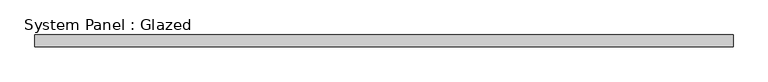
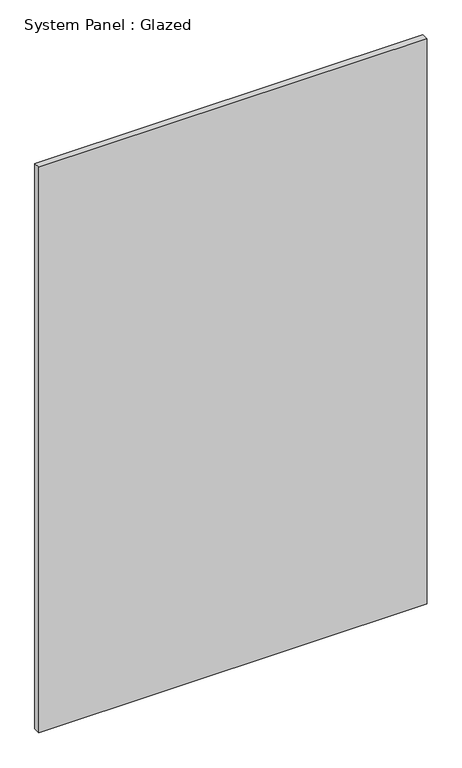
"""IFC4 building model written with IfcOpenShell, lengths in millimetres: plate geometry, System Panel : Glazed."""

import ifcopenshell
import ifcopenshell.guid

model = None  # the IFC model being written
_history = None  # IfcOwnerHistory: only IFC2X3 demands one
_inside = {}  # id of a spatial element -> (the spatial element, [elements in it])
_under = {}  # id of a project, library or spatial element -> (it, [spatial elements below it])
_declared = {}  # id of a project -> (the project, [libraries it declares])
_typed = {}  # id of a type object -> (the type object, [elements of that type])
_made_of = {}  # id of a material, layer set ... -> (it, [elements and type objects made of it])


def new_model(schema):
    """Start an empty IFC model of exactly this schema.

    Asked for "IFC4X3", IfcOpenShell would pick the latest addendum, in which some entities
    have other attributes; the version numbers below select the first issue.
    IFC2X3 requires an IfcOwnerHistory on every rooted entity: one is made here for all.
    """
    global model, _history
    if schema == "IFC4X3":
        model = ifcopenshell.file(schema_version=(4, 3, 0, 0))
    else:
        model = ifcopenshell.file(schema=schema)
    _inside.clear()
    _under.clear()
    _declared.clear()
    _typed.clear()
    _made_of.clear()
    _history = None
    if model.schema == "IFC2X3":
        org = make("IfcOrganization", Name="unknown")
        user = make(
            "IfcPersonAndOrganization",
            ThePerson=make("IfcPerson", FamilyName="unknown"),
            TheOrganization=org,
        )
        app = make(
            "IfcApplication",
            ApplicationDeveloper=org,
            Version="unknown",
            ApplicationFullName="unknown",
            ApplicationIdentifier="unknown",
        )
        _history = make(
            "IfcOwnerHistory",
            OwningUser=user,
            OwningApplication=app,
            ChangeAction="ADDED",
            CreationDate=0,
        )
    return model


def make(cls, **values):
    """One entity of the class cls with the attributes given. An attribute that is None is left unset."""
    return model.create_entity(
        cls, **{name: value for name, value in values.items() if value is not None}
    )


def rooted(cls, **values):
    """An entity with a GlobalId (a new one), such as an element, a storey or a relation."""
    return make(cls, GlobalId=ifcopenshell.guid.new(), OwnerHistory=_history, **values)


def si_unit(unit_type, name, prefix=None):
    """IfcSIUnit, for example si_unit("LENGTHUNIT", "METRE", prefix="MILLI")."""
    return make("IfcSIUnit", UnitType=unit_type, Prefix=prefix, Name=name)


def assignment(units):
    """IfcUnitAssignment: the units of a project."""
    return None if units is None else make("IfcUnitAssignment", Units=units)


def point(xyz):
    """IfcCartesianPoint."""
    return None if xyz is None else make("IfcCartesianPoint", Coordinates=xyz)


def direction(xyz):
    """IfcDirection."""
    return None if xyz is None else make("IfcDirection", DirectionRatios=xyz)


def frame(location, z_axis=None, x_axis=None):
    """IfcAxis2Placement3D, a coordinate frame: its origin and axes. An axis left out is left unset."""
    return make(
        "IfcAxis2Placement3D",
        Location=point(location),
        Axis=direction(z_axis),
        RefDirection=direction(x_axis),
    )


def origin():
    """The frame at (0, 0, 0) with its axes left unset."""
    return frame((0.0, 0.0, 0.0))


def origin_with_axes():
    """The frame at (0, 0, 0) with the z axis (0, 0, 1) and the x axis (1, 0, 0) written out."""
    return frame((0.0, 0.0, 0.0), z_axis=(0.0, 0.0, 1.0), x_axis=(1.0, 0.0, 0.0))


def place(relative_to, where):
    """IfcLocalPlacement: puts the frame where relative to a parent placement (None: the world)."""
    return make(
        "IfcLocalPlacement", PlacementRelTo=relative_to, RelativePlacement=where
    )


def context(
    kind, dimensions, precision=None, world=None, true_north=None, identifier=None
):
    """IfcGeometricRepresentationContext, for example the 3D "Model" context."""
    return make(
        "IfcGeometricRepresentationContext",
        ContextIdentifier=identifier,
        ContextType=kind,
        CoordinateSpaceDimension=dimensions,
        Precision=precision,
        WorldCoordinateSystem=world,
        TrueNorth=true_north,
    )


def project(units=None, contexts=None):
    """IfcProject with its units and contexts."""
    return rooted(
        "IfcProject",
        Name="project",
        RepresentationContexts=contexts,
        UnitsInContext=assignment(units),
    )


def spatial(cls, under=None, at=None, **own):
    """A site, building, storey or space (cls), placed at a placement, below another one or the project."""
    s = rooted(cls, ObjectPlacement=at, **own)
    if under is not None:
        _under.setdefault(under.id(), (under, []))[1].append(s)
    return s


def polyline(points):
    """IfcPolyline through the points."""
    return make("IfcPolyline", Points=[point(p) for p in points])


def outline(outer, holes=None, kind="AREA"):
    """IfcArbitraryClosedProfileDef: a profile drawn as a closed curve; with holes, ...WithVoids."""
    if holes is None:
        return make("IfcArbitraryClosedProfileDef", ProfileType=kind, OuterCurve=outer)
    return make(
        "IfcArbitraryProfileDefWithVoids",
        ProfileType=kind,
        OuterCurve=outer,
        InnerCurves=holes,
    )


def extrude(swept, where, along, depth):
    """IfcExtrudedAreaSolid: the profile swept, set in the frame where, extruded along a direction by depth."""
    return make(
        "IfcExtrudedAreaSolid",
        SweptArea=swept,
        Position=where,
        ExtrudedDirection=direction(along),
        Depth=depth,
    )


def shape(context_of_items, identifier, shape_type, items):
    """IfcShapeRepresentation: the items that make up one representation, for example the "Body"."""
    return make(
        "IfcShapeRepresentation",
        ContextOfItems=context_of_items,
        RepresentationIdentifier=identifier,
        RepresentationType=shape_type,
        Items=items,
    )


def source(mapping_origin, context_of_items, identifier, shape_type, items):
    """IfcRepresentationMap: a shape defined once, which mapped items show again and again."""
    return make(
        "IfcRepresentationMap",
        MappingOrigin=mapping_origin,
        MappedRepresentation=shape(context_of_items, identifier, shape_type, items),
    )


def transform(
    local_origin,
    x_axis=None,
    y_axis=None,
    z_axis=None,
    scale=None,
    scale2=None,
    scale3=None,
    uniform=True,
):
    """IfcCartesianTransformationOperator3D, or its non-uniform kind. x_axis, y_axis, z_axis: its Axis1, 2, 3."""
    if uniform:
        return make(
            "IfcCartesianTransformationOperator3D",
            Axis1=direction(x_axis),
            Axis2=direction(y_axis),
            LocalOrigin=point(local_origin),
            Scale=scale,
            Axis3=direction(z_axis),
        )
    return make(
        "IfcCartesianTransformationOperator3DnonUniform",
        Axis1=direction(x_axis),
        Axis2=direction(y_axis),
        LocalOrigin=point(local_origin),
        Scale=scale,
        Axis3=direction(z_axis),
        Scale2=scale2,
        Scale3=scale3,
    )


def mapped(mapping_source, mapping_target):
    """IfcMappedItem: shows the shape of a source again, moved by a transform."""
    return make(
        "IfcMappedItem", MappingSource=mapping_source, MappingTarget=mapping_target
    )


def made_of(thing, what):
    """Note that an element or type object is made of a material, layer set ...; save() writes the relation."""
    if what is not None:
        _made_of.setdefault(what.id(), (what, []))[1].append(thing)
    return thing


def element(
    cls,
    number,
    at=None,
    inside=None,
    cuts=None,
    type_object=None,
    material=None,
    context=None,
    identifier="Body",
    shape_type=None,
    held_by="IfcProductDefinitionShape",
    body=None,
    shapes=None,
    **own,
):
    """One element of the class cls, such as IfcWall. Its Tag is "e" and its number.

    at: its placement. inside: the storey or other place that contains it. cuts: it is an
    opening in that element (IfcRelVoidsElement). A single representation is given by context,
    identifier, shape_type and body (its items); several are given by shapes. held_by: the class
    of the entity that holds the representations. save() writes the other relations.
    """
    e = rooted(cls, Tag="e%d" % number, ObjectPlacement=at, **own)
    if body is not None:
        shapes = [shape(context, identifier, shape_type, body)]
    if shapes is not None:
        e.Representation = make(held_by, Representations=shapes)
    if inside is not None:
        _inside.setdefault(inside.id(), (inside, []))[1].append(e)
    if cuts is not None:
        rooted(
            "IfcRelVoidsElement", RelatingBuildingElement=cuts, RelatedOpeningElement=e
        )
    if type_object is not None:
        _typed.setdefault(type_object.id(), (type_object, []))[1].append(e)
    return made_of(e, material)


def aggregate(whole, parts):
    """IfcRelAggregates: a whole, such as a stair, and the parts it consists of."""
    return rooted("IfcRelAggregates", RelatingObject=whole, RelatedObjects=parts)


def save(model, path):
    """Write the relations noted so far, then the file.

    IfcRelAggregates (storeys below a building ...), IfcRelContainedInSpatialStructure (elements
    in a storey), IfcRelDefinesByType, IfcRelAssociatesMaterial and IfcRelDeclares: one each for
    every whole, place, type object, material and project.
    """
    for whole, parts in _under.values():
        aggregate(whole, parts)
    for where, things in _inside.values():
        rooted(
            "IfcRelContainedInSpatialStructure",
            RelatedElements=things,
            RelatingStructure=where,
        )
    for kind, things in _typed.values():
        rooted("IfcRelDefinesByType", RelatedObjects=things, RelatingType=kind)
    for what, things in _made_of.values():
        rooted("IfcRelAssociatesMaterial", RelatedObjects=things, RelatingMaterial=what)
    for by, libraries in _declared.values():
        rooted("IfcRelDeclares", RelatingContext=by, RelatedDefinitions=libraries)
    model.write(path)


def system_panel_glazed_5628729f(model_context):
    return source(origin(), model_context, "Body", "SweptSolid", [
        extrude(outline(polyline([(742.4954406, 19.05), (-742.4954406, 19.05), (-742.4954406, 44.45), (742.4954406, 44.45), (742.4954406, 19.05)])), origin_with_axes(), (0.0, 0.0, 1.0), 2286.0),
    ])


if __name__ == "__main__":
    model = new_model("IFC4")
    model_context = context("Model", 3, world=origin())
    ifc_project = project(units=[si_unit("LENGTHUNIT", "METRE", prefix="MILLI")], contexts=[model_context])
    site = spatial("IfcSite", under=ifc_project)
    building = spatial("IfcBuilding", under=site)
    placement = place(None, origin())
    system_panel_glazed_shape = system_panel_glazed_5628729f(model_context)
    element("IfcPlate", 1, ObjectType="System Panel : Glazed", at=placement, inside=building, context=model_context, shape_type="MappedRepresentation", body=[
        mapped(system_panel_glazed_shape, transform((0.0, 0.0, 0.0), x_axis=(1.0, 0.0, 0.0), y_axis=(0.0, 1.0, 0.0), z_axis=(0.0, 0.0, 1.0))),
    ])
    save(model, "model.ifc")
